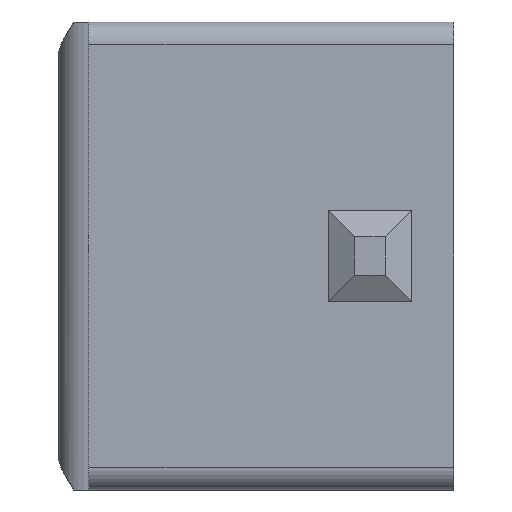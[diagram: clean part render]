
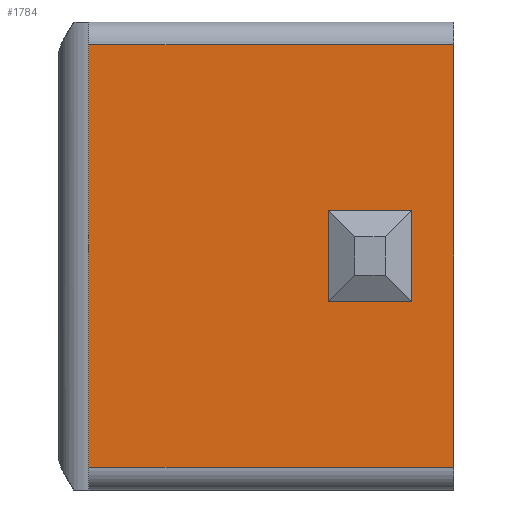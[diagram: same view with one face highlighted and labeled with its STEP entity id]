
A CAD part, front view. The second image highlights one B-rep face of the part: STEP entity #1784.
In plain terms, the highlighted planar face has unit normal (0, -1, 0).
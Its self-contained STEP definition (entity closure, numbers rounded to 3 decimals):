
#27 = CARTESIAN_POINT ( 'NONE',  ( 1., 0., 6.95 ) ) ;
#69 = VERTEX_POINT ( 'NONE', #254 ) ;
#108 = ORIENTED_EDGE ( 'NONE', *, *, #588, .F. ) ;
#127 = CARTESIAN_POINT ( 'NONE',  ( 1., 0., -6.95 ) ) ;
#207 = DIRECTION ( 'NONE',  ( 1., 0., 0. ) ) ;
#213 = DIRECTION ( 'NONE',  ( 0., 0., 1. ) ) ;
#214 = VERTEX_POINT ( 'NONE', #991 ) ;
#221 = LINE ( 'NONE', #1232, #1499 ) ;
#254 = CARTESIAN_POINT ( 'NONE',  ( 13., 0., 6.95 ) ) ;
#309 = DIRECTION ( 'NONE',  ( -1., 0., 0. ) ) ;
#345 = VERTEX_POINT ( 'NONE', #127 ) ;
#351 = DIRECTION ( 'NONE',  ( 0., 0., -1. ) ) ;
#391 = PLANE ( 'NONE',  #1227 ) ;
#407 = VECTOR ( 'NONE', #1239, 1000. ) ;
#426 = ORIENTED_EDGE ( 'NONE', *, *, #1428, .T. ) ;
#487 = ORIENTED_EDGE ( 'NONE', *, *, #1526, .F. ) ;
#552 = LINE ( 'NONE', #1745, #555 ) ;
#555 = VECTOR ( 'NONE', #309, 1000. ) ;
#565 = DIRECTION ( 'NONE',  ( 1., 0., 0. ) ) ;
#588 = EDGE_CURVE ( 'NONE', #1774, #214, #1646, .T. ) ;
#631 = ORIENTED_EDGE ( 'NONE', *, *, #964, .T. ) ;
#653 = CARTESIAN_POINT ( 'NONE',  ( 8.884, 0., -1.5 ) ) ;
#708 = EDGE_CURVE ( 'NONE', #1774, #1014, #1477, .T. ) ;
#730 = VECTOR ( 'NONE', #351, 1000. ) ;
#753 = DIRECTION ( 'NONE',  ( 0., 0., 1. ) ) ;
#754 = EDGE_CURVE ( 'NONE', #1095, #69, #897, .T. ) ;
#762 = CARTESIAN_POINT ( 'NONE',  ( 13., 0., -6.95 ) ) ;
#766 = EDGE_LOOP ( 'NONE', ( #108, #1660, #487, #631 ) ) ;
#774 = DIRECTION ( 'NONE',  ( 0., 1., 0. ) ) ;
#778 = ORIENTED_EDGE ( 'NONE', *, *, #754, .F. ) ;
#782 = CARTESIAN_POINT ( 'NONE',  ( 0., 0., 7.7 ) ) ;
#793 = VECTOR ( 'NONE', #565, 1000. ) ;
#816 = ORIENTED_EDGE ( 'NONE', *, *, #1049, .F. ) ;
#886 = VECTOR ( 'NONE', #1259, 1000. ) ;
#897 = LINE ( 'NONE', #27, #793 ) ;
#964 = EDGE_CURVE ( 'NONE', #1731, #214, #221, .T. ) ;
#974 = VERTEX_POINT ( 'NONE', #762 ) ;
#979 = LINE ( 'NONE', #1391, #407 ) ;
#991 = CARTESIAN_POINT ( 'NONE',  ( 11.616, 0., -1.5 ) ) ;
#1014 = VERTEX_POINT ( 'NONE', #1854 ) ;
#1049 = EDGE_CURVE ( 'NONE', #345, #1095, #1268, .T. ) ;
#1085 = CARTESIAN_POINT ( 'NONE',  ( 11.616, 0., 1.5 ) ) ;
#1091 = DIRECTION ( 'NONE',  ( 0., 0., -1. ) ) ;
#1095 = VERTEX_POINT ( 'NONE', #1540 ) ;
#1129 = ORIENTED_EDGE ( 'NONE', *, *, #1256, .F. ) ;
#1132 = VECTOR ( 'NONE', #753, 1000. ) ;
#1211 = CARTESIAN_POINT ( 'NONE',  ( 13., 0., 7.7 ) ) ;
#1227 = AXIS2_PLACEMENT_3D ( 'NONE', #782, #774, #213 ) ;
#1229 = EDGE_LOOP ( 'NONE', ( #816, #426, #1129, #778 ) ) ;
#1232 = CARTESIAN_POINT ( 'NONE',  ( 11.616, 0., -1.5 ) ) ;
#1239 = DIRECTION ( 'NONE',  ( 1., 0., 0. ) ) ;
#1256 = EDGE_CURVE ( 'NONE', #69, #974, #1603, .T. ) ;
#1259 = DIRECTION ( 'NONE',  ( 0., 0., 1. ) ) ;
#1268 = LINE ( 'NONE', #1422, #886 ) ;
#1366 = CARTESIAN_POINT ( 'NONE',  ( 9.75, 0., -1.5 ) ) ;
#1391 = CARTESIAN_POINT ( 'NONE',  ( 1., 0., -6.95 ) ) ;
#1422 = CARTESIAN_POINT ( 'NONE',  ( 1., 0., 7.7 ) ) ;
#1428 = EDGE_CURVE ( 'NONE', #345, #974, #979, .T. ) ;
#1477 = LINE ( 'NONE', #1615, #1132 ) ;
#1499 = VECTOR ( 'NONE', #1091, 1000. ) ;
#1526 = EDGE_CURVE ( 'NONE', #1731, #1014, #552, .T. ) ;
#1533 = FACE_BOUND ( 'NONE', #766, .T. ) ;
#1540 = CARTESIAN_POINT ( 'NONE',  ( 1., 0., 6.95 ) ) ;
#1603 = LINE ( 'NONE', #1211, #730 ) ;
#1615 = CARTESIAN_POINT ( 'NONE',  ( 8.884, 0., 1.5 ) ) ;
#1646 = LINE ( 'NONE', #1366, #1799 ) ;
#1660 = ORIENTED_EDGE ( 'NONE', *, *, #708, .T. ) ;
#1693 = FACE_OUTER_BOUND ( 'NONE', #1229, .T. ) ;
#1731 = VERTEX_POINT ( 'NONE', #1085 ) ;
#1745 = CARTESIAN_POINT ( 'NONE',  ( 9.75, 0., 1.5 ) ) ;
#1774 = VERTEX_POINT ( 'NONE', #653 ) ;
#1784 = ADVANCED_FACE ( 'NONE', ( #1533, #1693 ), #391, .F. ) ;
#1799 = VECTOR ( 'NONE', #207, 1000. ) ;
#1854 = CARTESIAN_POINT ( 'NONE',  ( 8.884, 0., 1.5 ) ) ;
